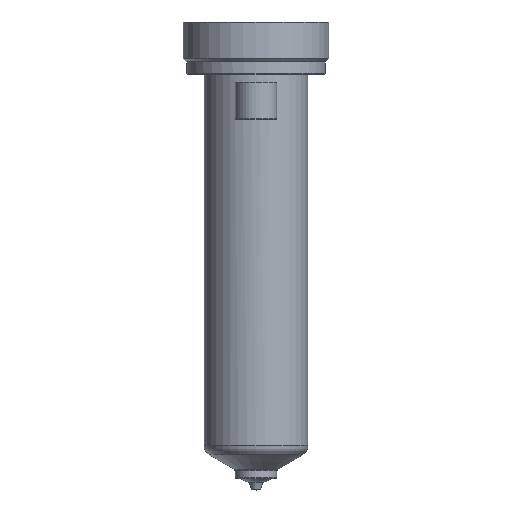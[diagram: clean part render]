
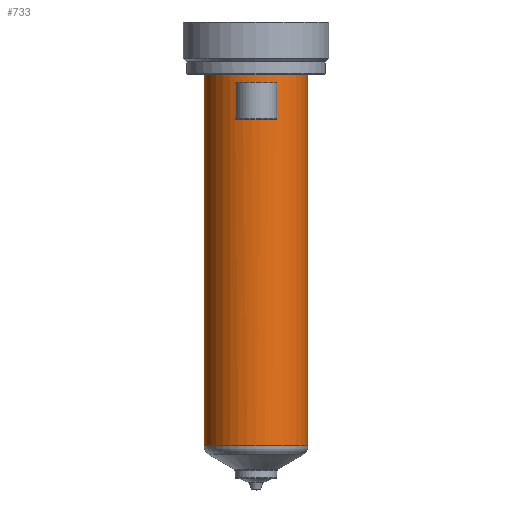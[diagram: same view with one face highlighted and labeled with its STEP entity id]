
A CAD part, top view. The second image highlights one B-rep face of the part: STEP entity #733.
In plain terms, the highlighted cylindrical face has radius 15 mm (diameter 30 mm), a partial arc.
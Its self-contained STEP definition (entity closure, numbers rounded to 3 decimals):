
#161=DIRECTION('',(0.,-1.,0.));
#162=VECTOR('',#161,107.283);
#163=CARTESIAN_POINT('',(15.,0.,0.));
#164=LINE('',#163,#162);
#165=CARTESIAN_POINT('',(0.,-107.283,0.));
#166=DIRECTION('',(0.,1.,0.));
#167=DIRECTION('',(-1.,0.,0.));
#168=AXIS2_PLACEMENT_3D('',#165,#166,#167);
#170=DIRECTION('',(0.,1.,0.));
#171=VECTOR('',#170,107.283);
#172=CARTESIAN_POINT('',(-15.,-107.283,0.));
#173=LINE('',#172,#171);
#174=CARTESIAN_POINT('',(0.,0.,0.));
#175=DIRECTION('',(0.,1.,0.));
#176=DIRECTION('',(-1.,0.,0.));
#177=AXIS2_PLACEMENT_3D('',#174,#175,#176);
#323=DIRECTION('',(0.,-1.,0.));
#324=VECTOR('',#323,10.5);
#325=CARTESIAN_POINT('',(-6.,-2.5,13.748));
#326=LINE('',#325,#324);
#331=CARTESIAN_POINT('',(0.,-13.,0.));
#332=DIRECTION('',(0.,1.,0.));
#333=DIRECTION('',(-0.4,0.,0.917));
#334=AXIS2_PLACEMENT_3D('',#331,#332,#333);
#366=CARTESIAN_POINT('',(0.,-2.5,0.));
#367=DIRECTION('',(0.,-1.,0.));
#368=DIRECTION('',(0.4,0.,0.917));
#369=AXIS2_PLACEMENT_3D('',#366,#367,#368);
#371=DIRECTION('',(0.,-1.,0.));
#372=VECTOR('',#371,10.5);
#373=CARTESIAN_POINT('',(6.,-2.5,13.748));
#374=LINE('',#373,#372);
#458=CARTESIAN_POINT('',(-15.,0.,0.));
#459=CARTESIAN_POINT('',(15.,0.,0.));
#460=VERTEX_POINT('',#458);
#461=VERTEX_POINT('',#459);
#470=CARTESIAN_POINT('',(6.,-2.5,13.748));
#471=VERTEX_POINT('',#470);
#472=CARTESIAN_POINT('',(-6.,-2.5,13.748));
#473=VERTEX_POINT('',#472);
#482=CARTESIAN_POINT('',(15.,-107.283,0.));
#483=VERTEX_POINT('',#482);
#492=CARTESIAN_POINT('',(-15.,-107.283,0.));
#493=VERTEX_POINT('',#492);
#510=CARTESIAN_POINT('',(-6.,-13.,13.748));
#511=CARTESIAN_POINT('',(6.,-13.,13.748));
#512=VERTEX_POINT('',#510);
#513=VERTEX_POINT('',#511);
#711=CARTESIAN_POINT('',(0.,16.4,0.));
#712=DIRECTION('',(0.,-1.,0.));
#713=DIRECTION('',(-1.,0.,0.));
#714=AXIS2_PLACEMENT_3D('',#711,#712,#713);
#715=CYLINDRICAL_SURFACE('',#714,15.);
#716=ORIENTED_EDGE('',*,*,#705,.T.);
#718=ORIENTED_EDGE('',*,*,#717,.F.);
#719=ORIENTED_EDGE('',*,*,#701,.T.);
#720=ORIENTED_EDGE('',*,*,#691,.T.);
#721=EDGE_LOOP('',(#716,#718,#719,#720));
#722=FACE_OUTER_BOUND('',#721,.F.);
#724=ORIENTED_EDGE('',*,*,#723,.T.);
#726=ORIENTED_EDGE('',*,*,#725,.T.);
#728=ORIENTED_EDGE('',*,*,#727,.F.);
#730=ORIENTED_EDGE('',*,*,#729,.T.);
#731=EDGE_LOOP('',(#724,#726,#728,#730));
#732=FACE_BOUND('',#731,.F.);
#733=ADVANCED_FACE('',(#722,#732),#715,.T.);
#169=CIRCLE('',#168,15.);
#178=CIRCLE('',#177,15.);
#335=CIRCLE('',#334,15.);
#370=CIRCLE('',#369,15.);
#691=EDGE_CURVE('',#460,#461,#178,.T.);
#701=EDGE_CURVE('',#493,#460,#173,.T.);
#705=EDGE_CURVE('',#461,#483,#164,.T.);
#717=EDGE_CURVE('',#493,#483,#169,.T.);
#723=EDGE_CURVE('',#473,#512,#326,.T.);
#725=EDGE_CURVE('',#512,#513,#335,.T.);
#727=EDGE_CURVE('',#471,#513,#374,.T.);
#729=EDGE_CURVE('',#471,#473,#370,.T.);
